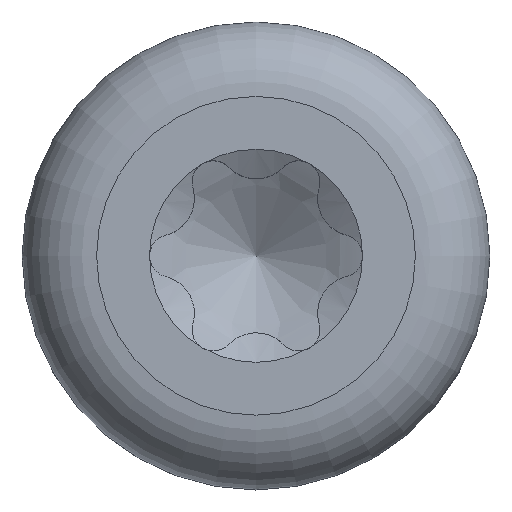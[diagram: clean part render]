
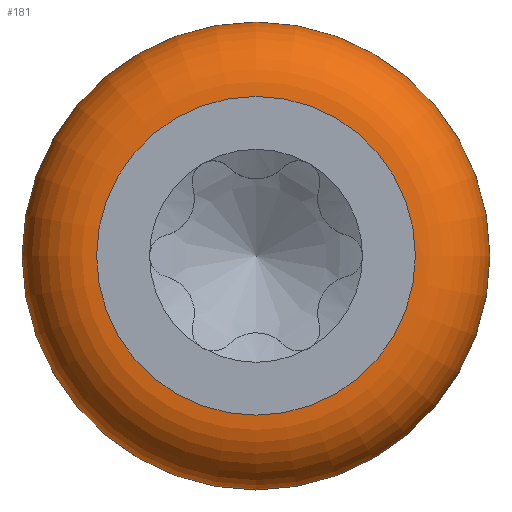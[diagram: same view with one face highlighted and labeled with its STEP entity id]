
A CAD part, top view. The second image highlights one B-rep face of the part: STEP entity #181.
In plain terms, the highlighted toroidal (fillet/blend) face has major radius 4.19 mm and minor radius 1.96 mm.
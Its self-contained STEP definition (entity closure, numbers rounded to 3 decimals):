
#150=TOROIDAL_SURFACE('',#942,4.19,1.96);
#161=FACE_BOUND('',#302,.T.);
#162=FACE_BOUND('',#303,.T.);
#181=ADVANCED_FACE('',(#161,#162),#150,.T.);
#302=EDGE_LOOP('',(#417));
#303=EDGE_LOOP('',(#418));
#367=CIRCLE('',#939,6.15);
#368=CIRCLE('',#941,4.19);
#417=ORIENTED_EDGE('',*,*,#752,.F.);
#418=ORIENTED_EDGE('',*,*,#751,.T.);
#665=VERTEX_POINT('',#1754);
#666=VERTEX_POINT('',#1757);
#751=EDGE_CURVE('',#665,#665,#367,.T.);
#752=EDGE_CURVE('',#666,#666,#368,.T.);
#939=AXIS2_PLACEMENT_3D('',#1753,#1007,#1008);
#941=AXIS2_PLACEMENT_3D('',#1756,#1011,#1012);
#942=AXIS2_PLACEMENT_3D('',#1758,#1013,#1014);
#1007=DIRECTION('',(0.,0.,1.));
#1008=DIRECTION('',(1.,0.,0.));
#1011=DIRECTION('',(0.,0.,1.));
#1012=DIRECTION('',(1.,0.,0.));
#1013=DIRECTION('',(0.,0.,1.));
#1014=DIRECTION('',(1.,0.,0.));
#1753=CARTESIAN_POINT('',(0.,0.,2.94));
#1754=CARTESIAN_POINT('',(6.15,0.,2.94));
#1756=CARTESIAN_POINT('',(0.,0.,4.9));
#1757=CARTESIAN_POINT('',(4.19,0.,4.9));
#1758=CARTESIAN_POINT('',(0.,0.,2.94));
